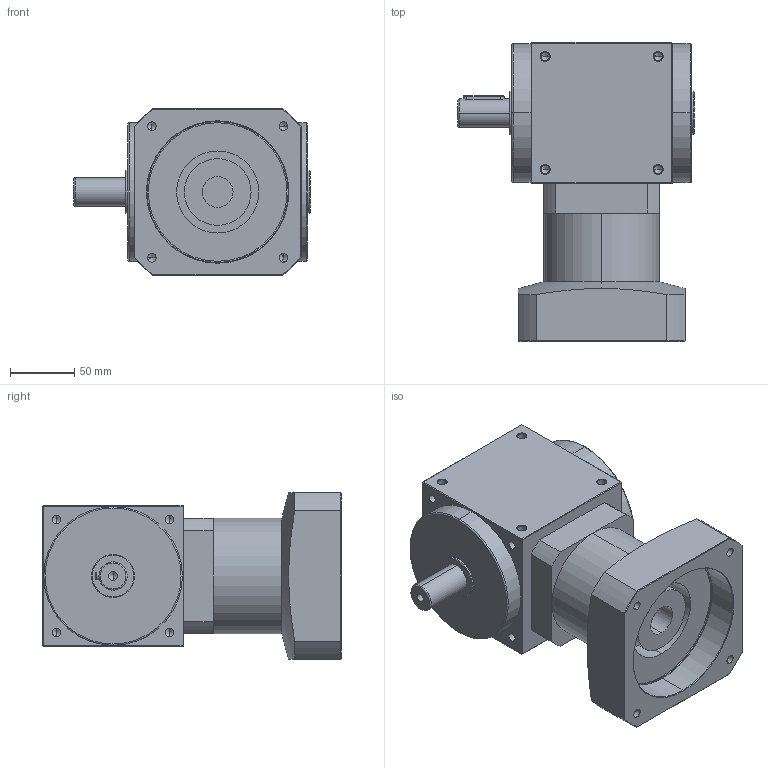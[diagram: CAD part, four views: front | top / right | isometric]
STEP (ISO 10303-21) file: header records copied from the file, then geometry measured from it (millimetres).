
FILE_DESCRIPTION (( 'STEP AP214' ), '1' );
FILE_NAME ('AT110-FL1-L1 -24-110-145-M8.STEP', '2020-05-23T02:41:50', ( 'User' ), ( 'Far123' ), 'SwSTEP 2.0', 'SolidWorks 2015', '' );
FILE_SCHEMA (( 'AUTOMOTIVE_DESIGN' ));
Length unit declared in the file: millimetre
Products named in the file (1): AT110-FL1-L1 -24-110-145-M8
Bounding box: 184 x 233 x 130 mm (x, y, z)
Volume: 2592576.6 mm3; surface area: 174289.7 mm2
Topology: 1 solids, 1 shells, 259 faces, 652 edges, 359 vertices
Faces by surface type: cylinder 122, cone 72, plane 59, torus 6
Entity records: 8438 total; most frequent: CARTESIAN_POINT 1717, ORIENTED_EDGE 1204, DIRECTION 1192, EDGE_CURVE 602, AXIS2_PLACEMENT_3D 458, VERTEX_POINT 359, EDGE_LOOP 297, VECTOR 276
